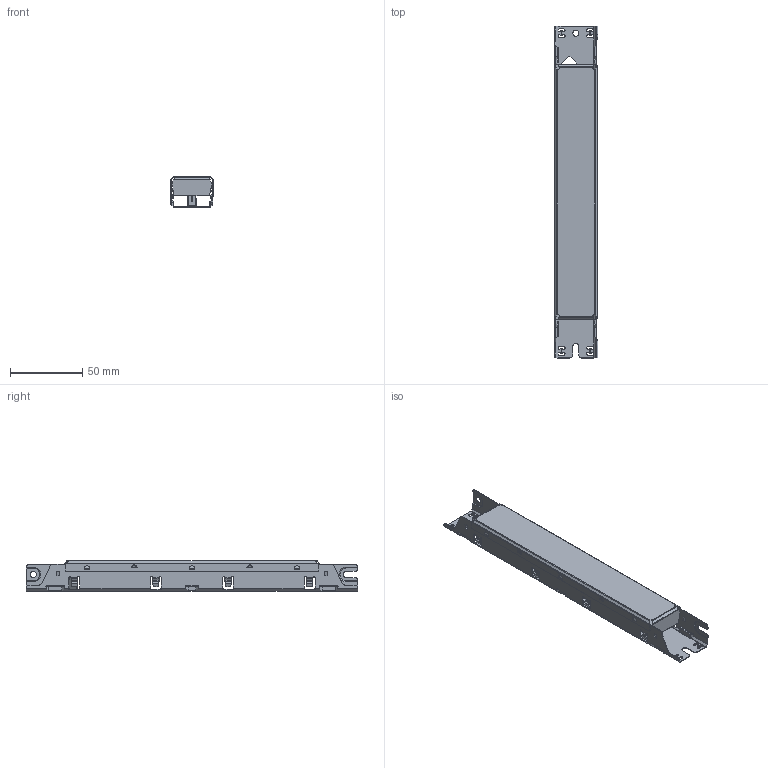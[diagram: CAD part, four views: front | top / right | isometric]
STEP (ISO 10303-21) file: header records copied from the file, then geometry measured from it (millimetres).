
FILE_DESCRIPTION(('Creo Elements/Direct Modeling STEP Export'),'2;1');
FILE_NAME('3D_M6.1.stp','2019-07-09T 7:47:36',(''),(''),'PTC Creo Elements/Direct Modeling STEP processor for AP214 (Solid Model)','PTC Creo Elements/Direct Modeling 19.0E 27-Jun-2016 (C) Parametric Technology GmbH','');
FILE_SCHEMA(('AUTOMOTIVE_DESIGN { 1 0 10303 214 1 1 1 1 }'));
Products named in the file (2): 3D_M6.1
Assembly tree (1 placements, depth 2):
  3D_M6.1
    3D_M6.1
Bounding box: 30 x 230 x 20.91 mm (x, y, z)
Surface area: 40561.4 mm2 (no closed solid volume)
Topology: 0 solids, 3 shells, 1184 faces, 3287 edges, 2027 vertices
Faces by surface type: cylinder 524, plane 490, bspline 142, sphere 24, cone 4
Entity records: 48799 total; most frequent: CARTESIAN_POINT 18422, ORIENTED_EDGE 6534, DIRECTION 5394, EDGE_CURVE 3257, VERTEX_POINT 2027, VECTOR 1900, LINE 1900, AXIS2_PLACEMENT_3D 1747
